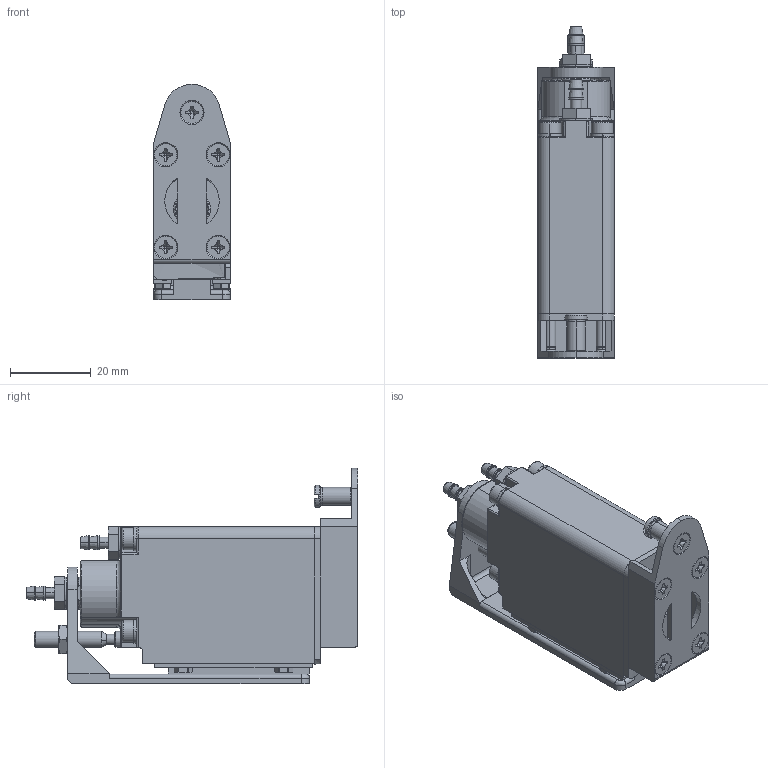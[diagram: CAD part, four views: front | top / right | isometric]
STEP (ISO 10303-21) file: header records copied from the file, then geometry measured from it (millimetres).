
FILE_DESCRIPTION (( 'STEP AP214' ), '1' );
FILE_NAME ('GT-NY03GR.STEP', '2019-11-27T01:07:24', ( '微软用户' ), ( '微软中国' ), 'SwSTEP 2.0', 'SolidWorks 2016', '' );
FILE_SCHEMA (( 'AUTOMOTIVE_DESIGN' ));
Length unit declared in the file: millimetre
Products named in the file (1): GT-NY03GR
Bounding box: 19 x 82.4 x 53.5 mm (x, y, z)
Surface area: 20485.6 mm2 (no closed solid volume)
Topology: 0 solids, 112 shells, 985 faces, 2652 edges, 1816 vertices
Faces by surface type: plane 434, cylinder 322, bspline 105, cone 80, torus 38, sphere 6
Entity records: 45846 total; most frequent: CARTESIAN_POINT 15240, ORIENTED_EDGE 4784, DIRECTION 4639, EDGE_CURVE 2628, VERTEX_POINT 1816, AXIS2_PLACEMENT_3D 1757, VECTOR 1125, LINE 1125
